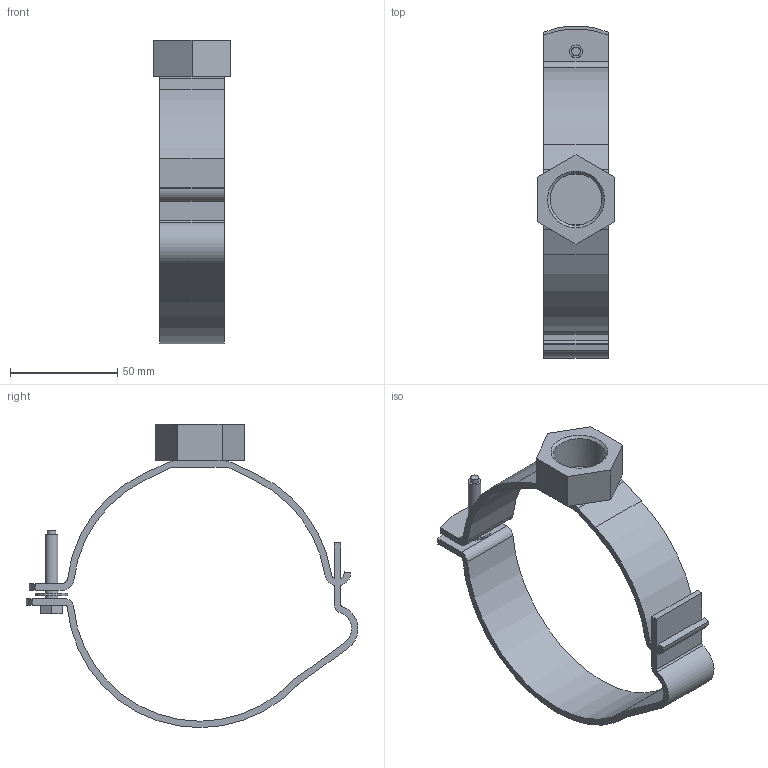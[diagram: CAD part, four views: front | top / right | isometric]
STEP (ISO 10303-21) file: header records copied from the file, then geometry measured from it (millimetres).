
FILE_DESCRIPTION( ( 'STEP AP214' ), '1' );
FILE_NAME( 'C:/Users/ilukic/Documents/ex/gebaudeentwasserung/pe/pipe bracket G3_4 adjustable/367842.stp', '2020-03-26T18:42:07', ( '' ), ( '' ), ' ', 'PARTsolutions', ' ' );
FILE_SCHEMA( ( 'AUTOMOTIVE_DESIGN { 1 0 10303 214 1 1 1 1 }' ) );
Length unit declared in the file: millimetre
Products named in the file (1): _367842
Bounding box: 36 x 154.56 x 141.2 mm (x, y, z)
Volume: 52751.5 mm3; surface area: 34821.3 mm2
Topology: 1 solids, 1 shells, 72 faces, 197 edges, 130 vertices
Faces by surface type: plane 39, cylinder 32, cone 1
Full cylindrical faces by diameter (mm): 4 x1, 6 x3, 15 x1, 24.117 x1
Entity records: 2848 total; most frequent: DIRECTION 402, CARTESIAN_POINT 389, ORIENTED_EDGE 376, EDGE_CURVE 188, AXIS2_PLACEMENT_3D 141, VERTEX_POINT 128, LINE 120, VECTOR 120
